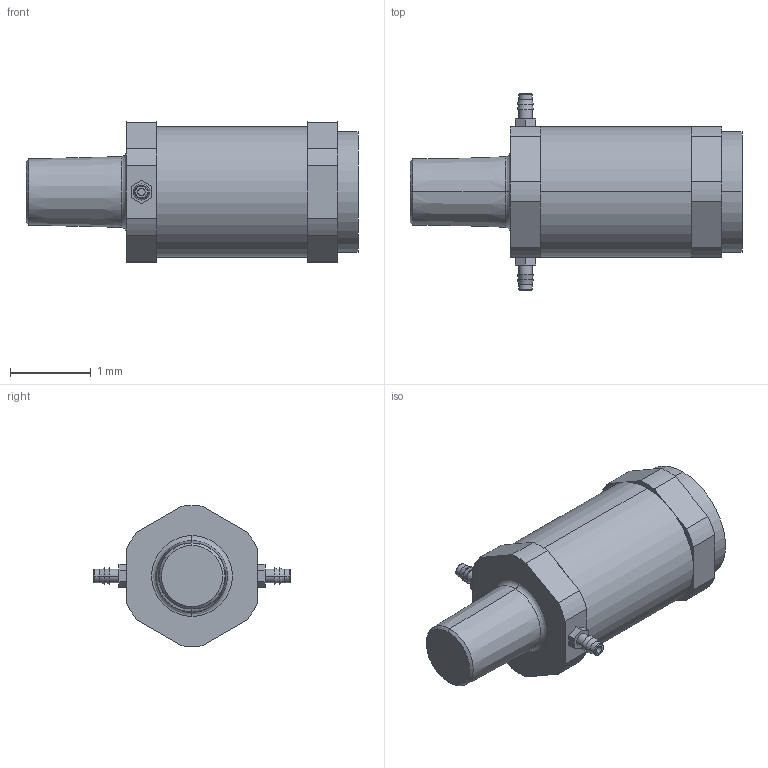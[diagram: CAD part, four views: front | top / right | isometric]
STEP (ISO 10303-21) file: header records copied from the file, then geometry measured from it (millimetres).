
FILE_DESCRIPTION((''),'2;1');
FILE_NAME('UER4.stp','2017-11-07T13:16:08',(''),(''),'Mechanical Desktop 2011','Mechanical Desktop 2011',', , ');
FILE_SCHEMA(('CONFIG_CONTROL_DESIGN'));
Length unit declared in the file: millimetre
Products named in the file (1): Product
Bounding box: 4.12 x 2.44 x 1.75 mm (x, y, z)
Volume: 6.7 mm3; surface area: 35.5 mm2
Topology: 6 solids, 6 shells, 89 faces, 198 edges, 128 vertices
Faces by surface type: plane 43, cylinder 28, cone 12, torus 4, bspline 2
Entity records: 2655 total; most frequent: CARTESIAN_POINT 504, DIRECTION 460, ORIENTED_EDGE 396, EDGE_CURVE 198, AXIS2_PLACEMENT_3D 174, VERTEX_POINT 128, VECTOR 112, LINE 112
